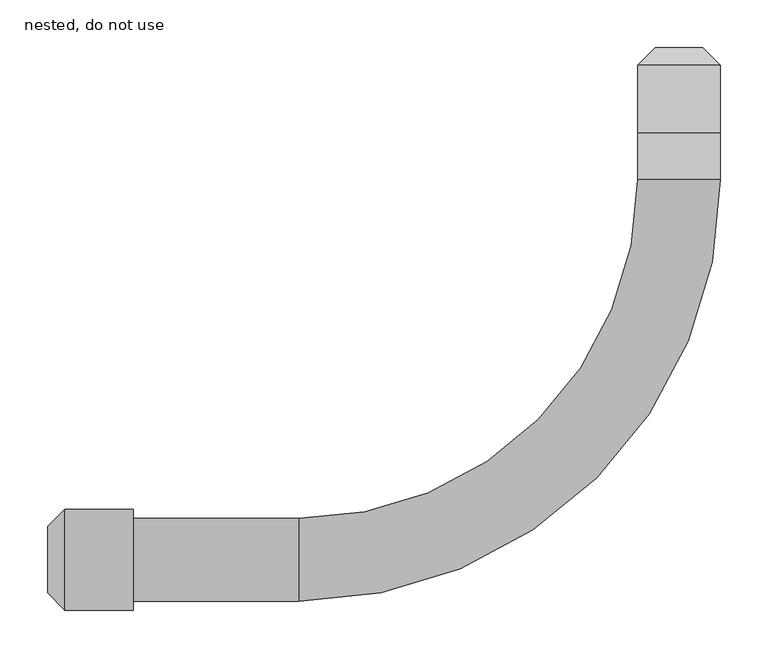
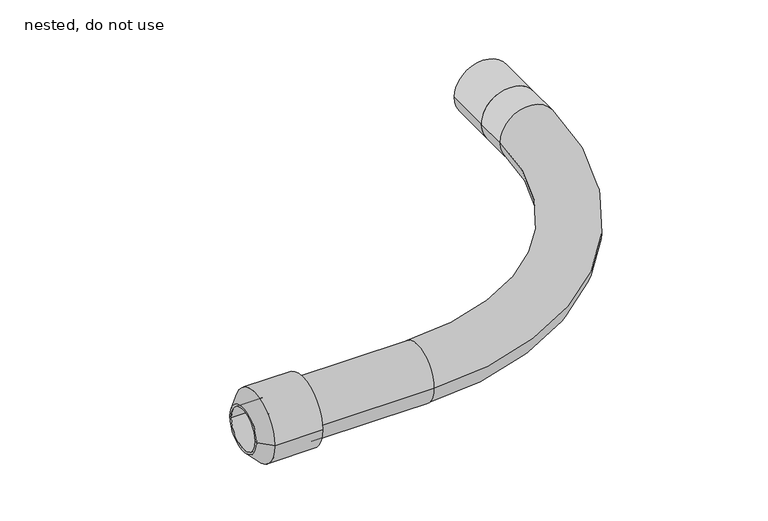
"""IFC4 building model written with IfcOpenShell, lengths in millimetres: pipe segment geometry, NLRS_52_PIF_UN_Vacurain Flex slang_SH_Dyka : nested, do not use."""

from ifc_helpers import new_model, si_unit, point, frame, origin, place, context, project, spatial, polyline, circle_curve, ellipse_curve, trimmed, source, transform, mapped, element, save
from ifc_brep_helpers import plane_surface, cylinder_surface, revolved_surface, advanced_brep


def nested_do_not_use_e5d02ef7(model_context):
    return source(origin(), model_context, "Body", "AdvancedBrep", [
        advanced_brep(
        [(-574.0, -543.5, 0.0), (-574.0, -456.5, 0.0), (-400.0, -543.5, 0.0), (-400.0, -456.5, 0.0), (-43.5, -100.0, 0.0), (43.5, -100.0, 0.0), (43.5, -51.0, 0.0), (-43.5, -51.0, 0.0)],
        [
            (0, 1, circle_curve(frame((-574.0, -500.0, 0.0), z_axis=(-1.0, 0.0, 0.0), x_axis=(0.0, 1.0, 0.0)), 43.5)),
            (1, 0, circle_curve(frame((-574.0, -500.0, 0.0), z_axis=(-1.0, 0.0, 0.0), x_axis=(0.0, 1.0, 0.0)), 43.5)),
            (0, 2),
            (2, 3, circle_curve(frame((-400.0, -500.0, 0.0), z_axis=(-1.0, 0.0, 0.0), x_axis=(0.0, 1.0, 0.0)), 43.5)),
            (3, 1),
            (3, 2, circle_curve(frame((-400.0, -500.0, 0.0), z_axis=(-1.0, 0.0, 0.0), x_axis=(0.0, 1.0, 0.0)), 43.5)),
            (4, 3, circle_curve(frame((-400.0, -100.0, 0.0), z_axis=(0.0, 0.0, -1.0), x_axis=(0.0, -1.0, 0.0)), 356.5)),
            (2, 5, circle_curve(frame((-400.0, -100.0, 0.0), z_axis=(0.0, 0.0, 1.0), x_axis=(0.0, -1.0, 0.0)), 443.5)),
            (5, 4, circle_curve(frame((0.0, -100.0, 0.0), z_axis=(0.0, -1.0, 0.0), x_axis=(-1.0, 0.0, 0.0)), 43.5)),
            (4, 5, circle_curve(frame((0.0, -100.0, 0.0), z_axis=(0.0, -1.0, 0.0), x_axis=(-1.0, 0.0, 0.0)), 43.5)),
            (6, 7, circle_curve(frame((0.0, -51.0, 0.0), z_axis=(0.0, 1.0, 0.0), x_axis=(-1.0, 0.0, 0.0)), 43.5)),
            (7, 6, circle_curve(frame((0.0, -51.0, 0.0), z_axis=(0.0, 1.0, 0.0), x_axis=(-1.0, 0.0, 0.0)), 43.5)),
            (5, 6),
            (7, 4),
        ],
        [
            plane_surface(frame((-574.0, -500.0, 0.0), z_axis=(-1.0, 0.0, 0.0), x_axis=(0.0, 0.0, 1.0))),
            cylinder_surface(frame((-574.0, -500.0, 0.0), z_axis=(-1.0, 0.0, 0.0), x_axis=(0.0, 1.0, 0.0)), 43.5),
            revolved_surface(trimmed(ellipse_curve(frame((-400.0, -500.0, 0.0), z_axis=(-1.0, 0.0, 0.0), x_axis=(0.0, 1.0, 0.0)), 43.5, 43.5), [point((-400.0, -543.5, 0.0))], [point((-400.0, -456.5, 0.0))], True, "CARTESIAN"), (-400.0, -100.0, 0.0), (0.0, 0.0, 1.0)),
            revolved_surface(trimmed(ellipse_curve(frame((-400.0, -500.0, 0.0), z_axis=(-1.0, 0.0, 0.0), x_axis=(0.0, 1.0, 0.0)), 43.5, 43.5), [point((-400.0, -456.5, 0.0))], [point((-400.0, -543.5, 0.0))], True, "CARTESIAN"), (-400.0, -100.0, 0.0), (0.0, 0.0, 1.0)),
            plane_surface(frame((0.0, -51.0, 0.0), z_axis=(0.0, 1.0, 0.0), x_axis=(0.0, 0.0, 1.0))),
            cylinder_surface(frame((0.0, -100.0, 0.0), z_axis=(0.0, -1.0, 0.0), x_axis=(-1.0, 0.0, 0.0)), 43.5),
        ],
        [
            (0, [[1, 2]]),
            (1, [[-1, 3, 4, 5]]),
            (1, [[-2, -5, 6, -3]]),
            (2, [[7, -4, 8, 9]]),
            (3, [[-8, -6, -7, 10]]),
            (4, [[11, 12]]),
            (5, [[-9, 13, -12, 14]]),
            (5, [[-10, -14, -11, -13]]),
        ],
    ),
        advanced_brep(
        [(-625.0, -531.5, 0.0), (-625.0, -468.5, 0.0), (-664.0, -468.5, 0.0), (-664.0, -531.5, 0.0), (-625.0, -500.0, 0.0), (-574.0, -553.0, 0.0), (-574.0, -447.0, 0.0), (-574.0, -500.0, 0.0), (-646.0, -553.0, 0.0), (-646.0, -447.0, 0.0), (-664.0, -535.0, 0.0), (-664.0, -465.0, 0.0)],
        [
            (0, 1, circle_curve(frame((-625.0, -500.0, 0.0), z_axis=(1.0, 0.0, 0.0), x_axis=(0.0, 1.0, 0.0)), 31.5)),
            (1, 2),
            (2, 3, circle_curve(frame((-664.0, -500.0, 0.0), z_axis=(-1.0, 0.0, 0.0), x_axis=(0.0, 1.0, 0.0)), 31.5)),
            (3, 0),
            (1, 0, circle_curve(frame((-625.0, -500.0, 0.0), z_axis=(1.0, 0.0, 0.0), x_axis=(0.0, 1.0, 0.0)), 31.5)),
            (3, 2, circle_curve(frame((-664.0, -500.0, 0.0), z_axis=(-1.0, 0.0, 0.0), x_axis=(0.0, 1.0, 0.0)), 31.5)),
            (4, 1),
            (0, 4),
            (5, 6, circle_curve(frame((-574.0, -500.0, 0.0), z_axis=(1.0, 0.0, 0.0), x_axis=(0.0, 1.0, 0.0)), 53.0)),
            (6, 7),
            (7, 5),
            (6, 5, circle_curve(frame((-574.0, -500.0, 0.0), z_axis=(1.0, 0.0, 0.0), x_axis=(0.0, 1.0, 0.0)), 53.0)),
            (8, 9, circle_curve(frame((-646.0, -500.0, 0.0), z_axis=(1.0, 0.0, 0.0), x_axis=(0.0, 1.0, 0.0)), 53.0)),
            (9, 6),
            (5, 8),
            (9, 8, circle_curve(frame((-646.0, -500.0, 0.0), z_axis=(1.0, 0.0, 0.0), x_axis=(0.0, 1.0, 0.0)), 53.0)),
            (10, 11, circle_curve(frame((-664.0, -500.0, 0.0), z_axis=(1.0, 0.0, 0.0), x_axis=(0.0, 1.0, 0.0)), 35.0)),
            (11, 9),
            (8, 10),
            (11, 10, circle_curve(frame((-664.0, -500.0, 0.0), z_axis=(1.0, 0.0, 0.0), x_axis=(0.0, 1.0, 0.0)), 35.0)),
            (2, 11),
            (10, 3),
        ],
        [
            revolved_surface(polyline([(-664.0, -468.5, 0.0), (-625.0, -468.5, 0.0)]), (-666.0, -500.0, 0.0), (-1.0, 0.0, 0.0)),
            plane_surface(frame((-625.0, -500.0, 0.0), z_axis=(-1.0, 0.0, 0.0), x_axis=(0.0, 1.0, 0.0))),
            plane_surface(frame((-574.0, -500.0, 0.0), z_axis=(1.0, 0.0, 0.0), x_axis=(0.0, 1.0, 0.0))),
            cylinder_surface(frame((-666.0, -500.0, 0.0), z_axis=(-1.0, 0.0, 0.0), x_axis=(0.0, 1.0, 0.0)), 53.0),
            revolved_surface(polyline([(-646.0, -447.0, 0.0), (-664.0, -465.0, 0.0)]), (-666.0, -500.0, 0.0), (-1.0, 0.0, 0.0)),
            plane_surface(frame((-664.0, -500.0, 0.0), z_axis=(-1.0, 0.0, 0.0), x_axis=(0.0, 1.0, 0.0))),
        ],
        [
            (0, [[1, 2, 3, 4]]),
            (0, [[5, -4, 6, -2]]),
            (1, [[7, -1, 8]]),
            (1, [[-8, -5, -7]]),
            (2, [[9, 10, 11]]),
            (2, [[12, -11, -10]]),
            (3, [[13, 14, -9, 15]]),
            (3, [[16, -15, -12, -14]]),
            (4, [[17, 18, -13, 19]]),
            (4, [[20, -19, -16, -18]]),
            (5, [[-3, 21, -17, 22]]),
            (5, [[-6, -22, -20, -21]]),
        ],
    ),
        advanced_brep(
        [(43.5, -51.0, 0.0), (-43.5, -51.0, 0.0), (-43.5, 20.5, 0.0), (43.5, 20.5, 0.0), (0.0, -51.0, 0.0), (25.0, 0.0, 0.0), (-25.0, 0.0, 0.0), (0.0, 0.0, 0.0), (25.0, 39.0, 0.0), (-25.0, 39.0, 0.0)],
        [
            (0, 1, circle_curve(frame((0.0, -51.0, 0.0), z_axis=(0.0, 1.0, 0.0), x_axis=(-1.0, 0.0, 0.0)), 43.5)),
            (1, 2),
            (2, 3, circle_curve(frame((0.0, 20.5, 0.0), z_axis=(0.0, -1.0, 0.0), x_axis=(-1.0, 0.0, 0.0)), 43.5)),
            (3, 0),
            (1, 0, circle_curve(frame((0.0, -51.0, 0.0), z_axis=(0.0, 1.0, 0.0), x_axis=(-1.0, 0.0, 0.0)), 43.5)),
            (3, 2, circle_curve(frame((0.0, 20.5, 0.0), z_axis=(0.0, -1.0, 0.0), x_axis=(-1.0, 0.0, 0.0)), 43.5)),
            (4, 1),
            (0, 4),
            (5, 6, circle_curve(frame((0.0, 0.0, 0.0), z_axis=(0.0, 1.0, 0.0), x_axis=(-1.0, 0.0, 0.0)), 25.0)),
            (6, 7),
            (7, 5),
            (6, 5, circle_curve(frame((0.0, 0.0, 0.0), z_axis=(0.0, 1.0, 0.0), x_axis=(-1.0, 0.0, 0.0)), 25.0)),
            (8, 9, circle_curve(frame((0.0, 39.0, 0.0), z_axis=(0.0, 1.0, 0.0), x_axis=(-1.0, 0.0, 0.0)), 25.0)),
            (9, 6),
            (5, 8),
            (9, 8, circle_curve(frame((0.0, 39.0, 0.0), z_axis=(0.0, 1.0, 0.0), x_axis=(-1.0, 0.0, 0.0)), 25.0)),
            (2, 9),
            (8, 3),
        ],
        [
            cylinder_surface(frame((0.0, 2019.0, 0.0), z_axis=(0.0, -1.0, 0.0), x_axis=(-1.0, 0.0, 0.0)), 43.5),
            plane_surface(frame((0.0, -51.0, 0.0), z_axis=(0.0, -1.0, 0.0), x_axis=(-1.0, 0.0, 0.0))),
            plane_surface(frame((0.0, 0.0, 0.0), z_axis=(0.0, 1.0, 0.0), x_axis=(-1.0, 0.0, 0.0))),
            revolved_surface(polyline([(-25.0, 0.0, 0.0), (-25.0, 39.0, 0.0)]), (0.0, 2019.0, 0.0), (0.0, -1.0, 0.0)),
            revolved_surface(polyline([(-25.0, 39.0, 0.0), (-43.5, 20.5, 0.0)]), (0.0, 2019.0, 0.0), (0.0, -1.0, 0.0)),
        ],
        [
            (0, [[1, 2, 3, 4]]),
            (0, [[5, -4, 6, -2]]),
            (1, [[7, -1, 8]]),
            (1, [[-8, -5, -7]]),
            (2, [[9, 10, 11]]),
            (2, [[12, -11, -10]]),
            (3, [[13, 14, -9, 15]]),
            (3, [[16, -15, -12, -14]]),
            (4, [[-3, 17, -13, 18]]),
            (4, [[-6, -18, -16, -17]]),
        ],
    ),
    ])


if __name__ == "__main__":
    model = new_model("IFC4")
    model_context = context("Model", 3, world=origin())
    ifc_project = project(units=[si_unit("LENGTHUNIT", "METRE", prefix="MILLI")], contexts=[model_context])
    site = spatial("IfcSite", under=ifc_project)
    building = spatial("IfcBuilding", under=site)
    placement = place(None, origin())
    nested_do_not_use_shape = nested_do_not_use_e5d02ef7(model_context)
    element("IfcPipeSegment", 1, ObjectType="NLRS_52_PIF_UN_Vacurain Flex slang_SH_Dyka : nested, do not use", at=placement, inside=building, context=model_context, shape_type="MappedRepresentation", body=[
        mapped(nested_do_not_use_shape, transform((0.0, 0.0, 0.0), x_axis=(1.0, 0.0, 0.0), y_axis=(0.0, 1.0, 0.0), z_axis=(0.0, 0.0, 1.0))),
    ])
    save(model, "model.ifc")
